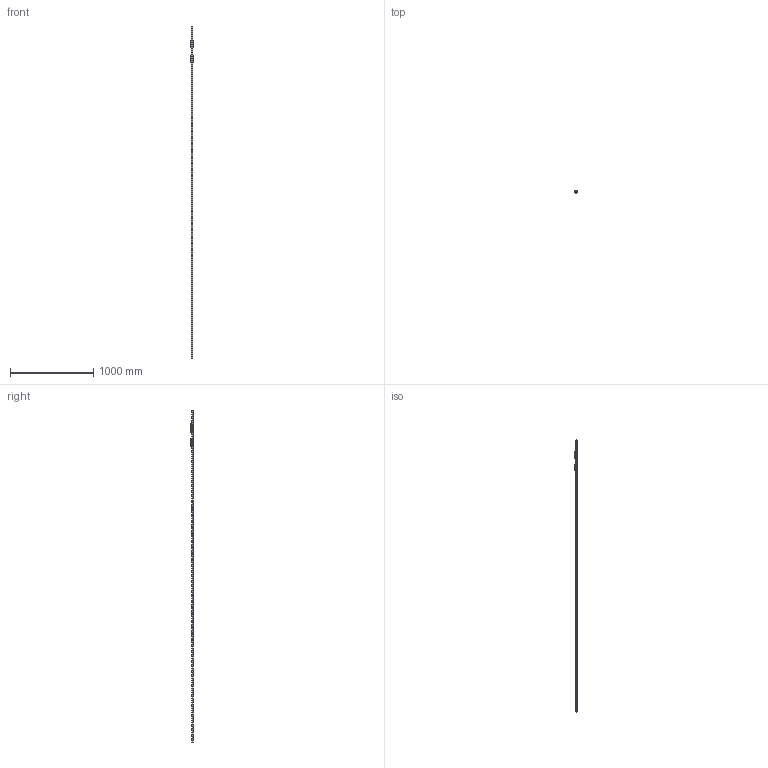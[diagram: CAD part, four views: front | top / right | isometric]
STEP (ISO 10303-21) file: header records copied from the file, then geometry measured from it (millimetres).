
FILE_DESCRIPTION((''),'2;1');
FILE_NAME('BRS20-LR_CUSTOMER_ASM_ASM','2020-11-24T14:37:16',('TWVS2025'),(''),'CREO PARAMETRIC BY PTC INC, 2018420','CREO PARAMETRIC BY PTC INC, 2018420','');
FILE_SCHEMA(('CONFIG_CONTROL_DESIGN'));
Products named in the file (4): BRR20_CUSTOMER_1; BC-BRC20-LR_ASM; BC-BRD20-LR_ASM_ASM; BRS20-LR_CUSTOMER_ASM_ASM
Assembly tree (3 placements, depth 2):
  BRS20-LR_CUSTOMER_ASM_ASM
    BRR20_CUSTOMER_1
    BC-BRC20-LR_ASM
    BC-BRD20-LR_ASM_ASM
Bounding box: 43.95 x 30 x 4000 mm (x, y, z)
Volume: 1199381.3 mm3; surface area: 407705.9 mm2
Topology: 13 solids, 21 shells, 4561 faces, 12916 edges, 8446 vertices
Faces by surface type: plane 1899, cylinder 1302, cone 704, torus 322, bspline 250, sphere 52, extrusion 20, revolution 12
Entity records: 203730 total; most frequent: CARTESIAN_POINT 88440, ORIENTED_EDGE 25612, DIRECTION 22094, EDGE_CURVE 12868, VERTEX_POINT 8446, AXIS2_PLACEMENT_3D 7844, VECTOR 6394, LINE 6374
